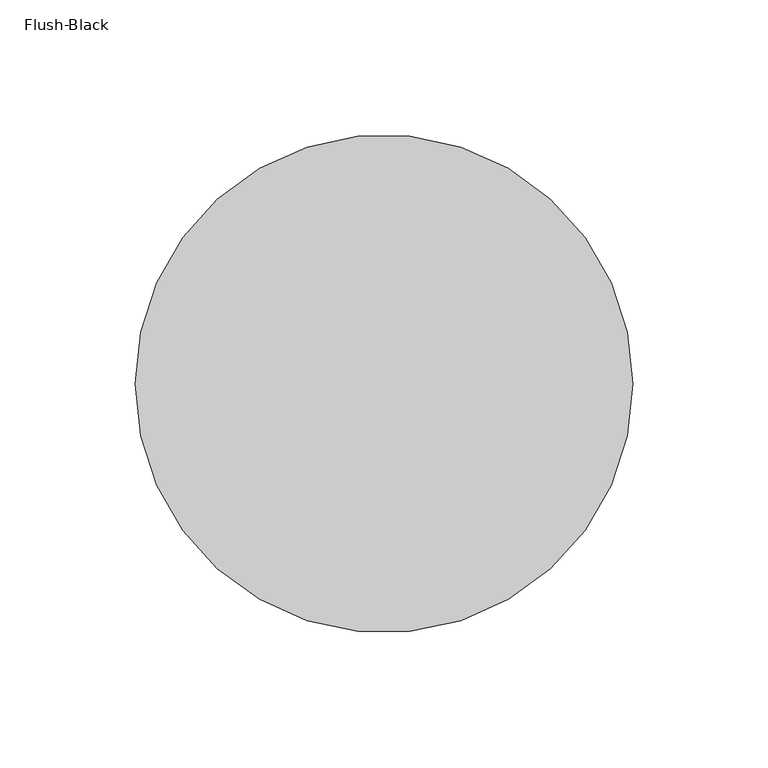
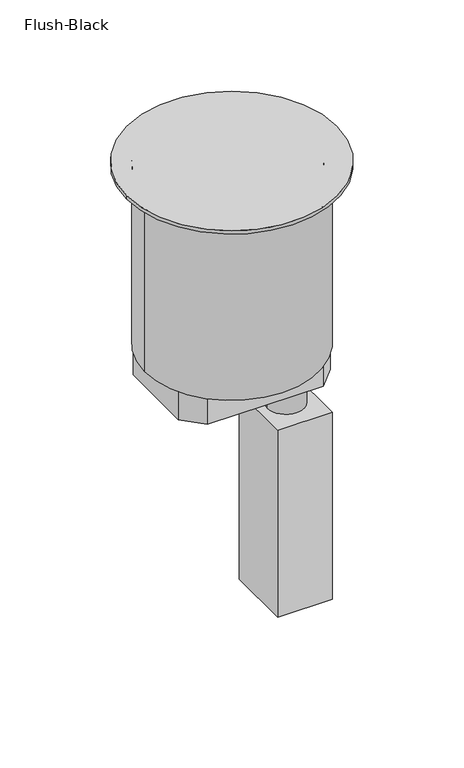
"""IFC4 building model written with IfcOpenShell, lengths in millimetres: proxy geometry, Poke_Thru-Evolution_6AT_Series-Wiremold-Prewired : Flush-Black."""

from ifc_helpers import new_model, si_unit, point, frame, frame_2d, origin, origin_2d, place, context, project, spatial, polyline, circle_curve, trimmed, segment, composite_curve, outline, extrude, source, transform, mapped, element, save
from ifc_brep_helpers import plane_surface, cylinder_surface, revolved_surface, advanced_brep


def flush_black_51cfdbfb(model_context):
    return source(origin(), model_context, "Body", "SolidModel", [
        extrude(outline(polyline([(-21.8163935, 61.9125), (22.0523137, 61.9125), (27.78125, 56.9197167), (27.78125, -56.9197167), (22.0523137, -61.9125), (-21.8163935, -61.9125), (-27.78125, -56.9197167), (-27.78125, 56.9197167), (-21.8163935, 61.9125)])), frame((0.0, 0.0, -9.525), z_axis=(0.0, 0.0, 1.0), x_axis=(1.0, 0.0, 0.0)), (0.0, 0.0, 1.0), 3.175),
        extrude(outline(composite_curve([segment(trimmed(circle_curve(origin_2d(), 92.075), [point((-92.075, 0.0))], [point((92.075, 0.0))], False, "CARTESIAN"), True, "CONTINUOUS"), segment(trimmed(circle_curve(origin_2d(), 92.075), [point((92.075, 0.0))], [point((-92.075, 0.0))], False, "CARTESIAN"), True, "CONTINUOUS")], self_intersect=False)), frame((0.0, 0.0, -3.175), z_axis=(0.0, 0.0, 1.0), x_axis=(1.0, 0.0, 0.0)), (0.0, 0.0, 1.0), 3.175),
        advanced_brep(
        [(69.85, 0.0, -9.525), (-69.85, 0.0, -9.525), (-76.2, 0.0, -168.275), (76.2, 0.0, -168.275), (76.2, 0.0, -9.525), (-76.2, 0.0, -9.525), (-76.2, 0.0, -3.175), (76.2, 0.0, -3.175), (-69.85, 0.0, -3.175), (69.85, 0.0, -3.175)],
        [
            (0, 1, circle_curve(frame((0.0, 0.0, -9.525), z_axis=(0.0, 0.0, 1.0), x_axis=(1.0, 0.0, 0.0)), 69.85)),
            (1, 0, circle_curve(frame((0.0, 0.0, -9.525), z_axis=(0.0, 0.0, 1.0), x_axis=(1.0, 0.0, 0.0)), 69.85)),
            (2, 3, circle_curve(frame((0.0, 0.0, -168.275), z_axis=(0.0, 0.0, -1.0), x_axis=(1.0, 0.0, 0.0)), 76.2)),
            (3, 2, circle_curve(frame((0.0, 0.0, -168.275), z_axis=(0.0, 0.0, -1.0), x_axis=(1.0, 0.0, 0.0)), 76.2)),
            (3, 4),
            (4, 5, circle_curve(frame((0.0, 0.0, -9.525), z_axis=(0.0, 0.0, -1.0), x_axis=(1.0, 0.0, 0.0)), 76.2)),
            (5, 2),
            (5, 4, circle_curve(frame((0.0, 0.0, -9.525), z_axis=(0.0, 0.0, -1.0), x_axis=(1.0, 0.0, 0.0)), 76.2)),
            (6, 7, circle_curve(frame((0.0, 0.0, -3.175), z_axis=(0.0, 0.0, 1.0), x_axis=(1.0, 0.0, 0.0)), 76.2)),
            (7, 6, circle_curve(frame((0.0, 0.0, -3.175), z_axis=(0.0, 0.0, 1.0), x_axis=(1.0, 0.0, 0.0)), 76.2)),
            (8, 9, circle_curve(frame((0.0, 0.0, -3.175), z_axis=(0.0, 0.0, -1.0), x_axis=(1.0, 0.0, 0.0)), 69.85)),
            (9, 8, circle_curve(frame((0.0, 0.0, -3.175), z_axis=(0.0, 0.0, -1.0), x_axis=(1.0, 0.0, 0.0)), 69.85)),
            (6, 5),
            (4, 7),
            (8, 1),
            (0, 9),
        ],
        [
            plane_surface(frame((76.2, 0.0, -9.525), z_axis=(0.0, 0.0, 1.0), x_axis=(0.0, 1.0, 0.0))),
            plane_surface(frame((76.2, 0.0, -168.275), z_axis=(0.0, 0.0, -1.0), x_axis=(0.0, -1.0, 0.0))),
            cylinder_surface(frame((0.0, 0.0, -168.275), z_axis=(0.0, 0.0, 1.0), x_axis=(1.0, 0.0, 0.0)), 76.2),
            plane_surface(frame((76.2, 0.0, -3.175), z_axis=(0.0, 0.0, 1.0), x_axis=(0.0, 1.0, 0.0))),
            cylinder_surface(frame((0.0, 0.0, -9.525), z_axis=(0.0, 0.0, 1.0), x_axis=(1.0, 0.0, 0.0)), 76.2),
            revolved_surface(polyline([(69.85, 0.0, -9.525), (69.85, 0.0, -3.175)]), (0.0, 0.0, 0.0), (0.0, 0.0, -1.0)),
        ],
        [
            (0, [[1, 2]]),
            (1, [[3, 4]]),
            (2, [[-4, 5, 6, 7]]),
            (2, [[-3, -7, 8, -5]]),
            (3, [[9, 10], [11, 12]]),
            (4, [[-9, 13, -6, 14]]),
            (4, [[-10, -14, -8, -13]]),
            (5, [[-11, 15, -1, 16]]),
            (5, [[-12, -16, -2, -15]]),
        ],
    ),
        extrude(outline(polyline([(50.8, 50.8), (66.675, 34.036), (66.675, -34.036), (50.8, -50.8), (-50.8, -50.8), (-66.675, -34.036), (-66.675, 34.036), (-50.8, 50.8), (50.8, 50.8)])), frame((0.0, 0.0, -195.2752), z_axis=(0.0, 0.0, 1.0), x_axis=(1.0, 0.0, 0.0)), (0.0, 0.0, 1.0), 27.0002),
        extrude(outline(composite_curve([segment(trimmed(circle_curve(frame_2d((47.244, 0.0)), 11.1252), [point((36.1188, 0.0))], [point((58.3692, 0.0))], False, "CARTESIAN"), True, "CONTINUOUS"), segment(trimmed(circle_curve(frame_2d((47.244, 0.0)), 11.1252), [point((58.3692, 0.0))], [point((36.1188, 0.0))], False, "CARTESIAN"), True, "CONTINUOUS")], self_intersect=False)), frame((0.0, 0.0, -220.6752), z_axis=(0.0, 0.0, 1.0), x_axis=(1.0, 0.0, 0.0)), (0.0, 0.0, 1.0), 25.4),
        extrude(outline(composite_curve([segment(trimmed(circle_curve(frame_2d((47.244, 0.0)), 16.0528), [point((31.1912, 0.0))], [point((63.2968, 0.0))], False, "CARTESIAN"), True, "CONTINUOUS"), segment(trimmed(circle_curve(frame_2d((47.244, 0.0)), 16.0528), [point((63.2968, 0.0))], [point((31.1912, 0.0))], False, "CARTESIAN"), True, "CONTINUOUS")], self_intersect=False)), frame((0.0, 0.0, -239.7252), z_axis=(0.0, 0.0, 1.0), x_axis=(1.0, 0.0, 0.0)), (0.0, 0.0, 1.0), 19.05),
        extrude(outline(polyline([(71.0438, 28.980332), (71.0438, -29.439668), (23.4442, -29.439668), (23.4442, 28.980332), (71.0438, 28.980332)])), frame((0.0, 0.0, -412.75), z_axis=(0.0, 0.0, 1.0), x_axis=(1.0, 0.0, 0.0)), (0.0, 0.0, 1.0), 173.0248),
        extrude(outline(composite_curve([segment(polyline([(-27.8003, -38.1), (-56.4048196, -38.1)]), True, "CONTINUOUS"), segment(trimmed(circle_curve(frame_2d((-2.7137129, 0.0)), 65.8357422), [point((-56.4048196, -38.1))], [point((-56.4048196, 38.1))], False, "CARTESIAN"), True, "CONTINUOUS"), segment(polyline([(-56.4048196, 38.1), (-27.8003, 38.1), (-27.8003, -38.1)]), True, "CONTINUOUS")], self_intersect=False)), frame((0.0, 0.0, -9.525), z_axis=(0.0, 0.0, 1.0), x_axis=(1.0, 0.0, 0.0)), (0.0, 0.0, 1.0), 3.175),
        extrude(outline(composite_curve([segment(polyline([(27.8003, -38.1), (27.8003, 38.1), (56.4048196, 38.1)]), True, "CONTINUOUS"), segment(trimmed(circle_curve(frame_2d((2.7137129, 0.0)), 65.8357422), [point((56.4048196, 38.1))], [point((56.4048196, -38.1))], False, "CARTESIAN"), True, "CONTINUOUS"), segment(polyline([(56.4048196, -38.1), (27.8003, -38.1)]), True, "CONTINUOUS")], self_intersect=False)), frame((0.0, 0.0, -9.525), z_axis=(0.0, 0.0, 1.0), x_axis=(1.0, 0.0, 0.0)), (0.0, 0.0, 1.0), 3.175),
    ])


if __name__ == "__main__":
    model = new_model("IFC4")
    model_context = context("Model", 3, world=origin())
    ifc_project = project(units=[si_unit("LENGTHUNIT", "METRE", prefix="MILLI")], contexts=[model_context])
    site = spatial("IfcSite", under=ifc_project)
    building = spatial("IfcBuilding", under=site)
    placement = place(None, origin())
    flush_black_shape = flush_black_51cfdbfb(model_context)
    element("IfcBuildingElementProxy", 1, Name="Poke_Thru-Evolution_6AT_Series-Wiremold-Prewired : Flush-Black", ObjectType="Poke_Thru-Evolution_6AT_Series-Wiremold-Prewired : Flush-Black", at=placement, inside=building, context=model_context, shape_type="MappedRepresentation", body=[
        mapped(flush_black_shape, transform((0.0, 0.0, 0.0), x_axis=(1.0, 0.0, 0.0), y_axis=(0.0, 1.0, 0.0), z_axis=(0.0, 0.0, 1.0))),
    ])
    save(model, "model.ifc")
